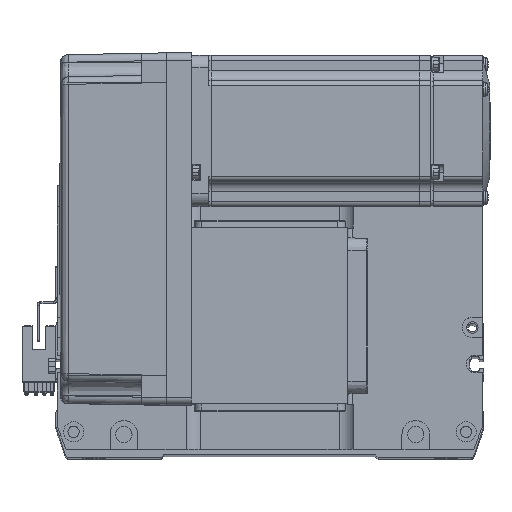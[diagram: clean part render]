
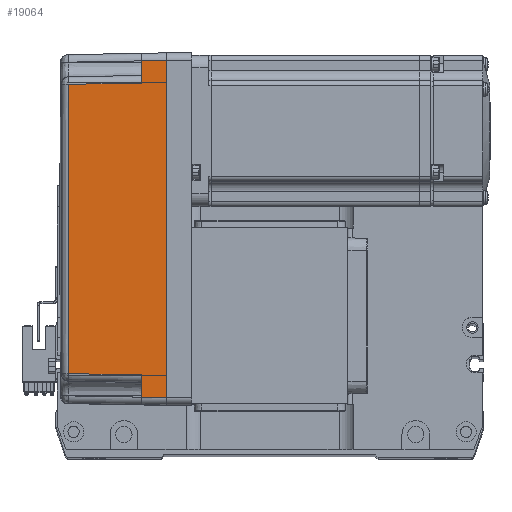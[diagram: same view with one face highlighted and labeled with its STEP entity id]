
A CAD part, top view. The second image highlights one B-rep face of the part: STEP entity #19064.
In plain terms, the highlighted planar face has unit normal (-0.018, 0, 1) as drawn and (0, 1, 0.017) by its records, which use the part's own axes.
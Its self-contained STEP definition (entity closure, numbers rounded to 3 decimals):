
#868 = VERTEX_POINT ( 'NONE', #23224 ) ;
#1696 = VECTOR ( 'NONE', #3056, 1000. ) ;
#1747 = ORIENTED_EDGE ( 'NONE', *, *, #29623, .F. ) ;
#2406 = CARTESIAN_POINT ( 'NONE',  ( 70., 35.825, 10. ) ) ;
#2919 = DIRECTION ( 'NONE',  ( 0.017, 0.017, -1. ) ) ;
#3056 = DIRECTION ( 'NONE',  ( 1., 0., 0. ) ) ;
#3115 = ORIENTED_EDGE ( 'NONE', *, *, #26675, .T. ) ;
#5643 = ORIENTED_EDGE ( 'NONE', *, *, #45901, .T. ) ;
#5794 = EDGE_CURVE ( 'NONE', #30958, #44843, #36915, .T. ) ;
#7139 = EDGE_CURVE ( 'NONE', #51324, #868, #30159, .T. ) ;
#11102 = VERTEX_POINT ( 'NONE', #32410 ) ;
#11621 = CARTESIAN_POINT ( 'NONE',  ( 0., 36., 0. ) ) ;
#11676 = CARTESIAN_POINT ( 'NONE',  ( -58., 35.825, 10. ) ) ;
#12054 = CARTESIAN_POINT ( 'NONE',  ( 58., 35.825, 10. ) ) ;
#16273 = CARTESIAN_POINT ( 'NONE',  ( -57.495, 35.32, 38.985 ) ) ;
#18365 = VERTEX_POINT ( 'NONE', #12054 ) ;
#18900 = ORIENTED_EDGE ( 'NONE', *, *, #53195, .T. ) ;
#19064 = ADVANCED_FACE ( 'NONE', ( #39976 ), #22052, .T. ) ;
#19991 = DIRECTION ( 'NONE',  ( 0.017, -0.017, 1. ) ) ;
#20146 = EDGE_CURVE ( 'NONE', #18365, #57167, #26012, .T. ) ;
#20202 = EDGE_CURVE ( 'NONE', #30958, #11102, #24544, .T. ) ;
#21073 = LINE ( 'NONE', #11676, #40065 ) ;
#22052 = PLANE ( 'NONE',  #37790 ) ;
#23224 = CARTESIAN_POINT ( 'NONE',  ( 57.495, 35.32, 38.985 ) ) ;
#24544 = LINE ( 'NONE', #11621, #28230 ) ;
#25064 = CARTESIAN_POINT ( 'NONE',  ( -19.165, 35.316, 39.181 ) ) ;
#25241 = VECTOR ( 'NONE', #19991, 1000. ) ;
#26012 = LINE ( 'NONE', #2406, #39922 ) ;
#26675 = EDGE_CURVE ( 'NONE', #44843, #54786, #46383, .T. ) ;
#27679 = EDGE_LOOP ( 'NONE', ( #56665, #3115, #5643, #50059, #18900, #41228, #1747, #31816 ) ) ;
#28230 = VECTOR ( 'NONE', #43987, 1000. ) ;
#28842 = LINE ( 'NONE', #47162, #50818 ) ;
#29623 = EDGE_CURVE ( 'NONE', #11102, #57167, #28842, .T. ) ;
#29783 = CARTESIAN_POINT ( 'NONE',  ( 57.495, 35.32, 38.985 ) ) ;
#30046 = DIRECTION ( 'NONE',  ( 1., 0., 0. ) ) ;
#30159 = B_SPLINE_CURVE_WITH_KNOTS ( 'NONE', 3,
 ( #16273, #25064, #57846, #29783 ),
 .UNSPECIFIED., .F., .F.,
 ( 4, 4 ),
 ( 0., 1. ),
 .UNSPECIFIED. ) ;
#30693 = CARTESIAN_POINT ( 'NONE',  ( -58., 35.825, 10. ) ) ;
#30958 = VERTEX_POINT ( 'NONE', #54823 ) ;
#31272 = DIRECTION ( 'NONE',  ( 0., 1., 0.017 ) ) ;
#31459 = CARTESIAN_POINT ( 'NONE',  ( -57.495, 35.32, 38.985 ) ) ;
#31816 = ORIENTED_EDGE ( 'NONE', *, *, #20202, .F. ) ;
#32410 = CARTESIAN_POINT ( 'NONE',  ( 67., 36., 0. ) ) ;
#34284 = CARTESIAN_POINT ( 'NONE',  ( -67., 36., 0. ) ) ;
#34816 = DIRECTION ( 'NONE',  ( 0.017, -0.017, 1. ) ) ;
#35342 = CARTESIAN_POINT ( 'NONE',  ( 70., 36., 0. ) ) ;
#36915 = LINE ( 'NONE', #34284, #25241 ) ;
#37790 = AXIS2_PLACEMENT_3D ( 'NONE', #35342, #31272, #55047 ) ;
#39922 = VECTOR ( 'NONE', #30046, 1000. ) ;
#39976 = FACE_OUTER_BOUND ( 'NONE', #27679, .T. ) ;
#40065 = VECTOR ( 'NONE', #34816, 1000. ) ;
#41228 = ORIENTED_EDGE ( 'NONE', *, *, #20146, .T. ) ;
#41987 = CARTESIAN_POINT ( 'NONE',  ( 66.826, 35.825, 10. ) ) ;
#43987 = DIRECTION ( 'NONE',  ( 1., 0., 0. ) ) ;
#44843 = VERTEX_POINT ( 'NONE', #49583 ) ;
#45901 = EDGE_CURVE ( 'NONE', #54786, #51324, #21073, .T. ) ;
#46383 = LINE ( 'NONE', #58590, #1696 ) ;
#47162 = CARTESIAN_POINT ( 'NONE',  ( 67.001, 36.001, -0.052 ) ) ;
#49583 = CARTESIAN_POINT ( 'NONE',  ( -66.826, 35.825, 10. ) ) ;
#50031 = CARTESIAN_POINT ( 'NONE',  ( 57.495, 35.32, 38.985 ) ) ;
#50059 = ORIENTED_EDGE ( 'NONE', *, *, #7139, .T. ) ;
#50818 = VECTOR ( 'NONE', #57224, 1000. ) ;
#51324 = VERTEX_POINT ( 'NONE', #31459 ) ;
#52160 = LINE ( 'NONE', #50031, #60204 ) ;
#53195 = EDGE_CURVE ( 'NONE', #868, #18365, #52160, .T. ) ;
#54786 = VERTEX_POINT ( 'NONE', #30693 ) ;
#54823 = CARTESIAN_POINT ( 'NONE',  ( -67., 36., 0. ) ) ;
#55047 = DIRECTION ( 'NONE',  ( 0., -0.017, 1. ) ) ;
#56665 = ORIENTED_EDGE ( 'NONE', *, *, #5794, .T. ) ;
#57167 = VERTEX_POINT ( 'NONE', #41987 ) ;
#57224 = DIRECTION ( 'NONE',  ( -0.017, -0.017, 1. ) ) ;
#57846 = CARTESIAN_POINT ( 'NONE',  ( 19.165, 35.316, 39.181 ) ) ;
#58590 = CARTESIAN_POINT ( 'NONE',  ( 70., 35.825, 10. ) ) ;
#60204 = VECTOR ( 'NONE', #2919, 1000. ) ;
